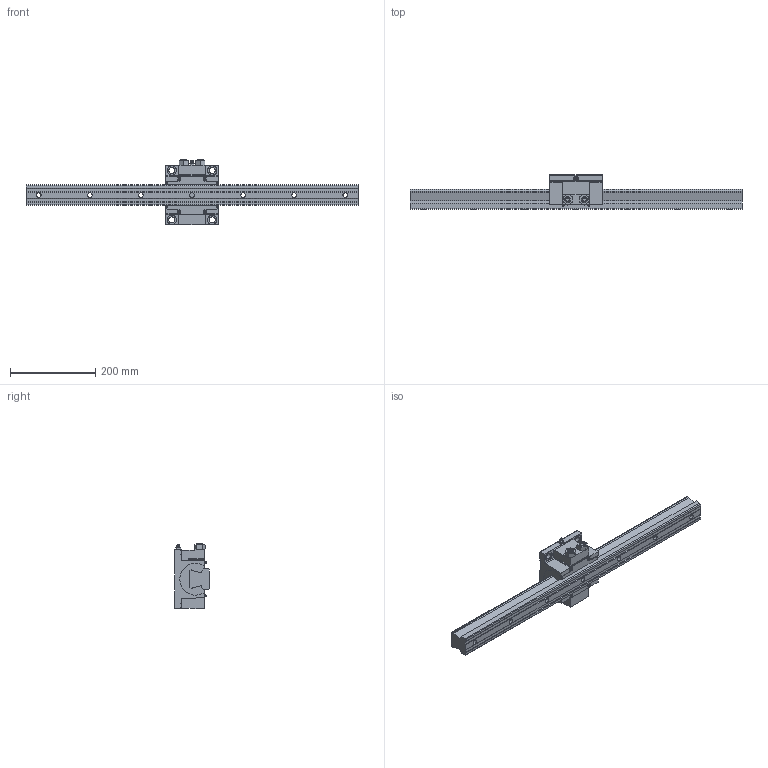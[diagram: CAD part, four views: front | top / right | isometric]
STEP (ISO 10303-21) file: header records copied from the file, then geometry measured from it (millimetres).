
FILE_DESCRIPTION(/* description */ ('STEP AP203'),/* implementation_level */ '2;1');
FILE_NAME(/* name */ 'NSR50TBC1-780L_G30_0_A-PT18_328-5_0_0_0',/* time_stamp */ '2024-05-21T12:12:36+02:00',/* author */ ('License CC BY-ND 4.0'),/* organization */ ('CADENAS'),/* preprocessor_version */ 'ST-DEVELOPER v19.3',/* originating_system */ 'PARTsolutions',/* authorisation */ ' ');
FILE_SCHEMA (('CONFIG_CONTROL_DESIGN'));
Length unit declared in the file: millimetre
Products named in the file (3): NSR50TBC1-780L_G30_0_A-PT18_328-5_0_0_0; NSR50TBC78030 Track; NSR50TBC
Assembly tree (2 placements, depth 2):
  NSR50TBC1-780L_G30_0_A-PT18_328-5_0_0_0
    NSR50TBC78030 Track
    NSR50TBC
Bounding box: 780 x 82 x 155 mm (x, y, z)
Volume: 2296199.6 mm3; surface area: 253983.8 mm2
Topology: 2 solids, 2 shells, 263 faces, 704 edges, 465 vertices
Faces by surface type: plane 166, cylinder 60, cone 27, torus 8, sphere 2
Full cylindrical faces by diameter (mm): 4.5 x4, 10 x2, 11 x7, 14 x6, 17.5 x7, 22 x4
Entity records: 8011 total; most frequent: CARTESIAN_POINT 1552, ORIENTED_EDGE 1290, DIRECTION 1274, EDGE_CURVE 645, VERTEX_POINT 449, LINE 428, VECTOR 428, AXIS2_PLACEMENT_3D 423
